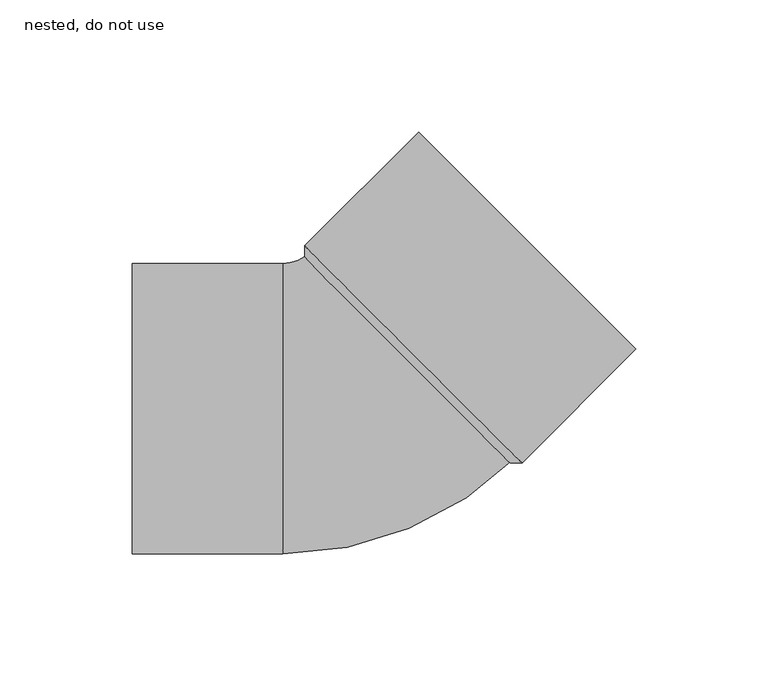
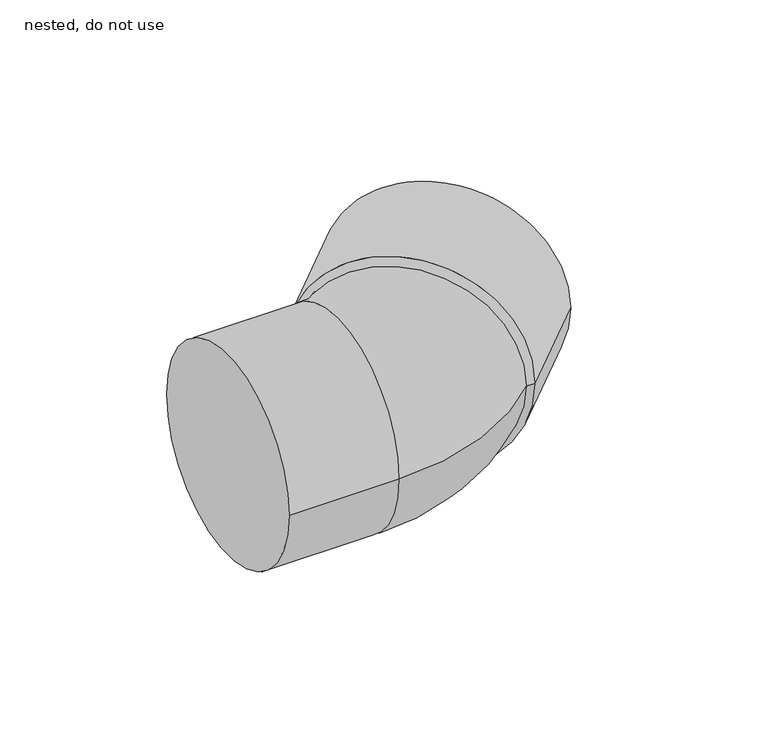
"""IFC4 building model written with IfcOpenShell, lengths in millimetres: pipe fitting geometry, NLRS_52_PIF_UN_Vacurain Flex bocht 1LV_SH_Dyka : nested, do not use."""

from ifc_helpers import new_model, si_unit, point, frame, origin, place, context, project, spatial, polyline, circle_curve, ellipse_curve, trimmed, source, transform, mapped, element, save
from ifc_brep_helpers import plane_surface, cylinder_surface, revolved_surface, advanced_brep


def nested_do_not_use_57badb64(model_context):
    return source(origin(), model_context, "Body", "AdvancedBrep", [
        advanced_brep(
        [(104.793225, 22.4859956, 0.0), (22.4859956, 104.793225, 0.0), (24.7487373, 102.5304833, 0.0), (102.5304833, 24.7487373, 0.0), (61.6597113, -20.647518, 0.0), (-20.647518, 61.6597113, 0.0), (57.1342279, -20.647518, 0.0), (-20.647518, 57.1342279, 0.0)],
        [
            (0, 1, circle_curve(frame((63.6396103, 63.6396103, 0.0), z_axis=(0.7071067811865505, 0.7071067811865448, 0.0), x_axis=(-0.7071067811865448, 0.7071067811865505, 0.0)), 58.2)),
            (1, 2),
            (2, 3, circle_curve(frame((63.6396103, 63.6396103, 0.0), z_axis=(-0.7071067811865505, -0.7071067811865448, 0.0), x_axis=(-0.7071067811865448, 0.7071067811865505, 0.0)), 55.0)),
            (3, 0),
            (1, 0, circle_curve(frame((63.6396103, 63.6396103, 0.0), z_axis=(0.7071067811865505, 0.7071067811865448, 0.0), x_axis=(-0.7071067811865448, 0.7071067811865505, 0.0)), 58.2)),
            (3, 2, circle_curve(frame((63.6396103, 63.6396103, 0.0), z_axis=(-0.7071067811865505, -0.7071067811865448, 0.0), x_axis=(-0.7071067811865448, 0.7071067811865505, 0.0)), 55.0)),
            (4, 5, circle_curve(frame((20.5060967, 20.5060967, 0.0), z_axis=(0.7071067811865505, 0.7071067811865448, 0.0), x_axis=(-0.7071067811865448, 0.7071067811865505, 0.0)), 58.2)),
            (5, 1),
            (0, 4),
            (5, 4, circle_curve(frame((20.5060967, 20.5060967, 0.0), z_axis=(0.7071067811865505, 0.7071067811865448, 0.0), x_axis=(-0.7071067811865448, 0.7071067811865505, 0.0)), 58.2)),
            (6, 7, circle_curve(frame((18.243355, 18.243355, 0.0), z_axis=(0.7071067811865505, 0.7071067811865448, 0.0), x_axis=(-0.7071067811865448, 0.7071067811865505, 0.0)), 55.0)),
            (7, 5),
            (4, 6),
            (7, 6, circle_curve(frame((18.243355, 18.243355, 0.0), z_axis=(0.7071067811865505, 0.7071067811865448, 0.0), x_axis=(-0.7071067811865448, 0.7071067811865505, 0.0)), 55.0)),
            (2, 7),
            (6, 3),
        ],
        [
            plane_surface(frame((63.6396103, 63.6396103, 0.0), z_axis=(0.7071067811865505, 0.7071067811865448, 0.0), x_axis=(-0.7071067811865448, 0.7071067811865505, 0.0))),
            cylinder_surface(frame((20.5060967, 20.5060967, 0.0), z_axis=(-0.7071067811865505, -0.7071067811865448, 0.0), x_axis=(-0.7071067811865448, 0.7071067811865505, 0.0)), 58.2),
            revolved_surface(polyline([(-20.647518, 61.6597113, 0.0), (-20.647518, 57.1342279, 0.0)]), (20.5060967, 20.5060967, 0.0), (-0.7071067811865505, -0.7071067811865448, 0.0)),
            revolved_surface(polyline([(-20.647518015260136, 57.13422791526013, 0.0), (24.748737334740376, 102.53048326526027, 0.0)]), (20.5060967, 20.5060967, 0.0), (-0.7071067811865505, -0.7071067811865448, 0.0)),
        ],
        [
            (0, [[1, 2, 3, 4]]),
            (0, [[5, -4, 6, -2]]),
            (1, [[7, 8, -1, 9]]),
            (1, [[10, -9, -5, -8]]),
            (2, [[11, 12, -7, 13]]),
            (2, [[14, -13, -10, -12]]),
            (3, [[-3, 15, -11, 16]]),
            (3, [[-6, -16, -14, -15]]),
        ],
    ),
        advanced_brep(
        [(-86.0, -55.0, 0.0), (-86.0, 55.0, 0.0), (-29.0, -55.0, 0.0), (-29.0, 55.0, 0.0), (59.3969696, -18.3847763, 0.0), (20.5041716, 20.5080217, 54.9999999), (-18.3847763, 59.3969696, 0.0), (20.5041716, 20.5080217, -54.9999999)],
        [
            (0, 1, circle_curve(frame((-86.0, 0.0, 0.0), z_axis=(-1.0, 0.0, 0.0), x_axis=(0.0, 1.0, 0.0)), 55.0)),
            (1, 0, circle_curve(frame((-86.0, 0.0, 0.0), z_axis=(-1.0, 0.0, 0.0), x_axis=(0.0, 1.0, 0.0)), 55.0)),
            (0, 2),
            (2, 3, circle_curve(frame((-29.0, 0.0, 0.0), z_axis=(-1.0, 0.0, 0.0), x_axis=(0.0, 1.0, 0.0)), 55.0)),
            (3, 1),
            (3, 2, circle_curve(frame((-29.0, 0.0, 0.0), z_axis=(-1.0, 0.0, 0.0), x_axis=(0.0, 1.0, 0.0)), 55.0)),
            (2, 4, circle_curve(frame((-29.0, 70.0121933, 0.0), z_axis=(0.0, 0.0, 1.0), x_axis=(0.0, -1.0, 0.0)), 125.0121933)),
            (4, 5, circle_curve(frame((20.5060967, 20.5060967, 0.0), z_axis=(-0.707106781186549, -0.7071067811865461, 0.0), x_axis=(-0.7071067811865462, 0.7071067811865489, 0.0)), 55.0)),
            (5, 6, circle_curve(frame((20.5060967, 20.5060967, 0.0), z_axis=(-0.7071067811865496, -0.7071067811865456, 0.0), x_axis=(-0.7071067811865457, 0.7071067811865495, 0.0)), 55.0)),
            (6, 3, circle_curve(frame((-29.0, 70.0121933, 0.0), z_axis=(0.0, 0.0, -1.0), x_axis=(0.0, -1.0, 0.0)), 15.0121933)),
            (6, 7, circle_curve(frame((20.5060967, 20.5060967, 0.0), z_axis=(-0.7071067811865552, -0.7071067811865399, 0.0), x_axis=(-0.70710678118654, 0.7071067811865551, 0.0)), 55.0)),
            (7, 4, circle_curve(frame((20.5060967, 20.5060967, 0.0), z_axis=(-0.7071067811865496, -0.7071067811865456, 0.0), x_axis=(-0.7071067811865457, 0.7071067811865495, 0.0)), 55.0)),
        ],
        [
            plane_surface(frame((-86.0, 0.0, 0.0), z_axis=(-1.0, 0.0, 0.0), x_axis=(0.0, 0.0, 1.0))),
            cylinder_surface(frame((-86.0, 0.0, 0.0), z_axis=(-1.0, 0.0, 0.0), x_axis=(0.0, 1.0, 0.0)), 55.0),
            revolved_surface(trimmed(ellipse_curve(frame((-29.0, 0.0, 0.0), z_axis=(-1.0000000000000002, 0.0, 0.0), x_axis=(0.0, 1.0, 0.0)), 55.0, 55.0), [point((-29.0, -55.0, 0.0))], [point((-29.0, 55.0, 0.0))], True, "CARTESIAN"), (-29.0, 70.0121933, 0.0), (0.0, 0.0, 1.0000000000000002)),
            revolved_surface(trimmed(ellipse_curve(frame((-29.0, 0.0, 0.0), z_axis=(-1.0000000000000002, 0.0, 0.0), x_axis=(0.0, 1.0, 0.0)), 55.0, 55.0), [point((-29.0, 55.0, 0.0))], [point((-29.0, -55.0, 0.0))], True, "CARTESIAN"), (-29.0, 70.0121933, 0.0), (0.0, 0.0, 1.0000000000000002)),
            plane_surface(frame((20.5060967, 20.5060967, 0.0), z_axis=(0.707106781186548, 0.707106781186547, 0.0), x_axis=(0.0, 0.0, 1.0))),
        ],
        [
            (0, [[1, 2]]),
            (1, [[-1, 3, 4, 5]]),
            (1, [[-2, -5, 6, -3]]),
            (2, [[-4, 7, 8, 9, 10]]),
            (3, [[-6, -10, 11, 12, -7]]),
            (4, [[-8, -12, -11, -9]]),
        ],
    ),
    ])


if __name__ == "__main__":
    model = new_model("IFC4")
    model_context = context("Model", 3, world=origin())
    ifc_project = project(units=[si_unit("LENGTHUNIT", "METRE", prefix="MILLI")], contexts=[model_context])
    site = spatial("IfcSite", under=ifc_project)
    building = spatial("IfcBuilding", under=site)
    placement = place(None, origin())
    nested_do_not_use_shape = nested_do_not_use_57badb64(model_context)
    element("IfcPipeFitting", 1, ObjectType="NLRS_52_PIF_UN_Vacurain Flex bocht 1LV_SH_Dyka : nested, do not use", at=placement, inside=building, context=model_context, shape_type="MappedRepresentation", body=[
        mapped(nested_do_not_use_shape, transform((0.0, 0.0, 0.0), x_axis=(1.0, 0.0, 0.0), y_axis=(0.0, 1.0, 0.0), z_axis=(0.0, 0.0, 1.0))),
    ])
    save(model, "model.ifc")
